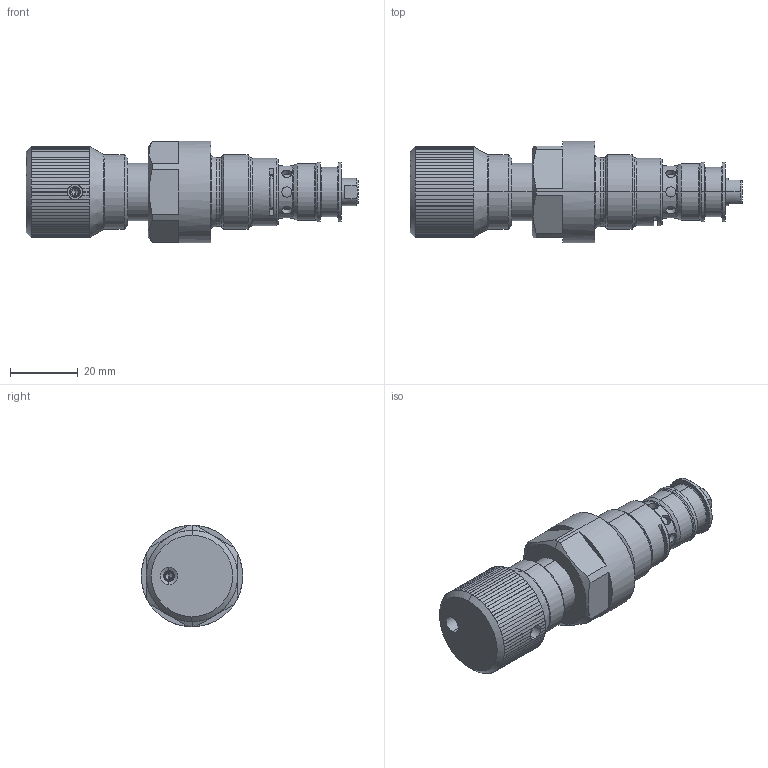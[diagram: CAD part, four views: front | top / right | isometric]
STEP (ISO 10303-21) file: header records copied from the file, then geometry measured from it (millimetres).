
FILE_DESCRIPTION (( 'STEP AP214' ), '1' );
FILE_NAME ('BADPM22-K9.STEP', '2021-03-05T10:18:26', ( '' ), ( '' ), 'SwSTEP 2.0', 'SolidWorks 2020', '' );
FILE_SCHEMA (( 'AUTOMOTIVE_DESIGN' ));
Length unit declared in the file: millimetre
Products named in the file (1): BADPM22-K9
Bounding box: 98.1 x 30 x 30 mm (x, y, z)
Volume: 39398.4 mm3; surface area: 9364.4 mm2
Topology: 1 solids, 1 shells, 696 faces, 1626 edges, 947 vertices
Faces by surface type: plane 488, cylinder 152, cone 37, torus 19
Entity records: 27875 total; most frequent: CARTESIAN_POINT 4504, DIRECTION 3245, ORIENTED_EDGE 3244, EDGE_CURVE 1622, VECTOR 1165, LINE 1165, AXIS2_PLACEMENT_3D 1040, VERTEX_POINT 947
